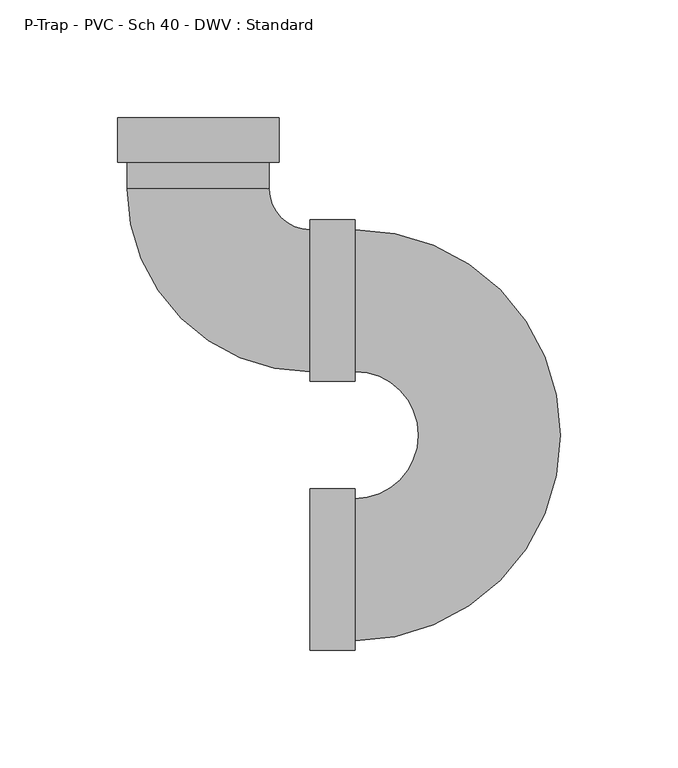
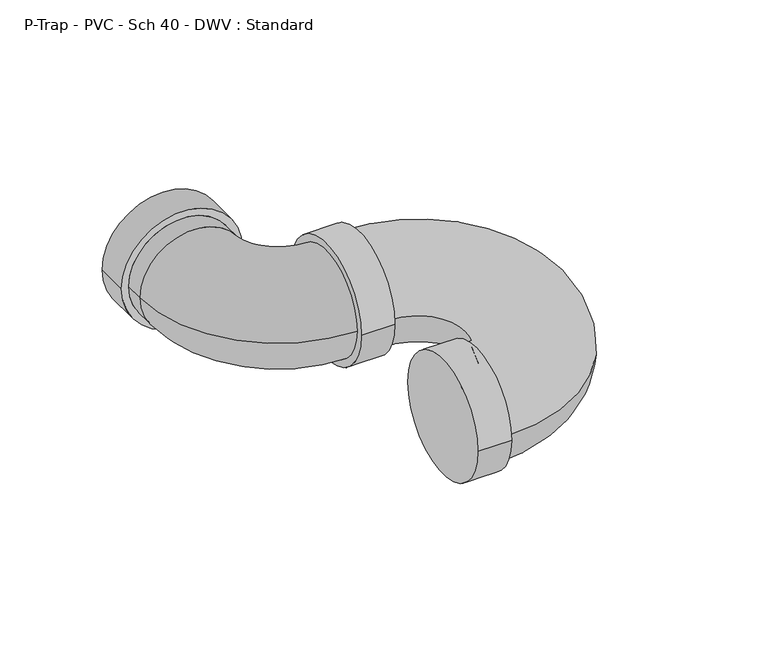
"""IFC4 building model written with IfcOpenShell, lengths in millimetres: pipe fitting geometry, P-Trap - PVC - Sch 40 - DWV : Standard."""

from ifc_helpers import new_model, si_unit, point, frame, origin, place, context, project, spatial, circle_curve, ellipse_curve, trimmed, source, transform, mapped, element, save
from ifc_brep_helpers import plane_surface, cylinder_surface, revolved_surface, advanced_brep


def p_trap_pvc_sch_40_dwv_standard_73d07651(model_context):
    return source(origin(), model_context, "Body", "AdvancedBrep", [
        advanced_brep(
        [(-34.3154, 192.0875, 0.0), (34.3154, 192.0875, 0.0), (-34.3154, 173.0375, 0.0), (34.3154, 173.0375, 0.0), (-30.1625, 173.0375, 0.0), (30.1625, 173.0375, 0.0), (30.1625, 161.925, 0.0), (-30.1625, 161.925, 0.0), (47.625, 84.1375, 0.0), (47.625, 144.4625, 0.0), (66.675, -30.1625, 0.0), (66.675, 144.4625, 0.0), (66.675, 84.1375, 0.0), (66.675, 30.1625, 0.0), (47.625, 79.9846, 0.0), (47.625, 148.6154, 0.0), (66.675, 79.9846, 0.0), (66.675, 148.6154, 0.0), (47.625, -34.3154, 0.0), (47.625, 34.3154, 0.0), (66.675, -34.3154, 0.0), (66.675, 34.3154, 0.0)],
        [
            (0, 1, circle_curve(frame((0.0, 192.0875, 0.0), z_axis=(0.0, 1.0, 0.0), x_axis=(1.0, 0.0, 0.0)), 34.3154)),
            (1, 0, circle_curve(frame((0.0, 192.0875, 0.0), z_axis=(0.0, 1.0, 0.0), x_axis=(1.0, 0.0, 0.0)), 34.3154)),
            (2, 3, circle_curve(frame((0.0, 173.0375, 0.0), z_axis=(0.0, -1.0, 0.0), x_axis=(1.0, 0.0, 0.0)), 34.3154)),
            (3, 2, circle_curve(frame((0.0, 173.0375, 0.0), z_axis=(0.0, -1.0, 0.0), x_axis=(1.0, 0.0, 0.0)), 34.3154)),
            (4, 5, circle_curve(frame((0.0, 173.0375, 0.0), z_axis=(0.0, 1.0, 0.0), x_axis=(1.0, 0.0, 0.0)), 30.1625)),
            (5, 4, circle_curve(frame((0.0, 173.0375, 0.0), z_axis=(0.0, 1.0, 0.0), x_axis=(1.0, 0.0, 0.0)), 30.1625)),
            (0, 2),
            (3, 1),
            (6, 7, circle_curve(frame((0.0, 161.925, 0.0), z_axis=(0.0, -1.0, 0.0), x_axis=(1.0, 0.0, 0.0)), 30.1625)),
            (7, 8, circle_curve(frame((47.625, 161.925, 0.0), z_axis=(0.0, 0.0, 1.0), x_axis=(-1.0, 0.0, 0.0)), 77.7875)),
            (8, 9, circle_curve(frame((47.625, 114.3, 0.0), z_axis=(-1.0, 0.0, 0.0), x_axis=(0.0, 1.0, 0.0)), 30.1625)),
            (9, 6, circle_curve(frame((47.625, 161.925, 0.0), z_axis=(0.0, 0.0, -1.0), x_axis=(-1.0, 0.0, 0.0)), 17.4625)),
            (7, 6, circle_curve(frame((0.0, 161.925, 0.0), z_axis=(0.0, -1.0, 0.0), x_axis=(1.0, 0.0, 0.0)), 30.1625)),
            (9, 8, circle_curve(frame((47.625, 114.3, 0.0), z_axis=(-1.0, 0.0, 0.0), x_axis=(0.0, 1.0, 0.0)), 30.1625)),
            (10, 11, circle_curve(frame((66.675, 57.15, 0.0), z_axis=(0.0, 0.0, 1.0), x_axis=(0.0, 1.0, 0.0)), 87.3125)),
            (11, 12, circle_curve(frame((66.675, 114.3, 0.0), z_axis=(1.0, 0.0, 0.0), x_axis=(0.0, 1.0, 0.0)), 30.1625)),
            (12, 13, circle_curve(frame((66.675, 57.15, 0.0), z_axis=(0.0, 0.0, -1.0), x_axis=(0.0, 1.0, 0.0)), 26.9875)),
            (13, 10, circle_curve(frame((66.675, 0.0, 0.0), z_axis=(1.0, 0.0, 0.0), x_axis=(0.0, -1.0, 0.0)), 30.1625)),
            (10, 13, circle_curve(frame((66.675, 0.0, 0.0), z_axis=(1.0, 0.0, 0.0), x_axis=(0.0, -1.0, 0.0)), 30.1625)),
            (12, 11, circle_curve(frame((66.675, 114.3, 0.0), z_axis=(1.0, 0.0, 0.0), x_axis=(0.0, 1.0, 0.0)), 30.1625)),
            (14, 15, circle_curve(frame((47.625, 114.3, 0.0), z_axis=(-1.0, 0.0, 0.0), x_axis=(0.0, 1.0, 0.0)), 34.3154)),
            (15, 14, circle_curve(frame((47.625, 114.3, 0.0), z_axis=(-1.0, 0.0, 0.0), x_axis=(0.0, 1.0, 0.0)), 34.3154)),
            (16, 17, circle_curve(frame((66.675, 114.3, 0.0), z_axis=(1.0, 0.0, 0.0), x_axis=(0.0, 1.0, 0.0)), 34.3154)),
            (17, 16, circle_curve(frame((66.675, 114.3, 0.0), z_axis=(1.0, 0.0, 0.0), x_axis=(0.0, 1.0, 0.0)), 34.3154)),
            (14, 16),
            (17, 15),
            (18, 19, circle_curve(frame((47.625, 0.0, 0.0), z_axis=(-1.0, 0.0, 0.0), x_axis=(0.0, 1.0, 0.0)), 34.3154)),
            (19, 18, circle_curve(frame((47.625, 0.0, 0.0), z_axis=(-1.0, 0.0, 0.0), x_axis=(0.0, 1.0, 0.0)), 34.3154)),
            (20, 21, circle_curve(frame((66.675, 0.0, 0.0), z_axis=(1.0, 0.0, 0.0), x_axis=(0.0, 1.0, 0.0)), 34.3154)),
            (21, 20, circle_curve(frame((66.675, 0.0, 0.0), z_axis=(1.0, 0.0, 0.0), x_axis=(0.0, 1.0, 0.0)), 34.3154)),
            (18, 20),
            (21, 19),
            (6, 5),
            (4, 7),
        ],
        [
            plane_surface(frame((0.0, 192.0875, 0.0), z_axis=(0.0, 1.0, 0.0), x_axis=(0.0, 0.0, 1.0))),
            plane_surface(frame((0.0, 173.0375, 0.0), z_axis=(0.0, -1.0, 0.0), x_axis=(0.0, 0.0, 1.0))),
            cylinder_surface(frame((0.0, 192.0875, 0.0), z_axis=(0.0, 1.0, 0.0), x_axis=(1.0, 0.0, 0.0)), 34.3154),
            revolved_surface(trimmed(ellipse_curve(frame((0.0, 161.925, 0.0), z_axis=(0.0, 1.0, 0.0), x_axis=(1.0, 0.0, 0.0)), 30.1625, 30.1625), [point((-30.1625, 161.925, 0.0))], [point((30.1625, 161.925, 0.0))], True, "CARTESIAN"), (47.625, 161.925, 0.0), (0.0, 0.0, 1.0)),
            revolved_surface(trimmed(ellipse_curve(frame((0.0, 161.925, 0.0), z_axis=(0.0, 1.0, 0.0), x_axis=(1.0, 0.0, 0.0)), 30.1625, 30.1625), [point((30.1625, 161.925, 0.0))], [point((-30.1625, 161.925, 0.0))], True, "CARTESIAN"), (47.625, 161.925, 0.0), (0.0, 0.0, 1.0)),
            revolved_surface(trimmed(ellipse_curve(frame((66.675, 114.3, 0.0), z_axis=(-1.0, 0.0, 0.0), x_axis=(0.0, 1.0, 0.0)), 30.1625, 30.1625), [point((66.675, 84.1375, 0.0))], [point((66.675, 144.4625, 0.0))], True, "CARTESIAN"), (66.675, 57.15, 0.0), (0.0, 0.0, -1.0)),
            revolved_surface(trimmed(ellipse_curve(frame((66.675, 114.3, 0.0), z_axis=(-1.0, 0.0, 0.0), x_axis=(0.0, 1.0, 0.0)), 30.1625, 30.1625), [point((66.675, 144.4625, 0.0))], [point((66.675, 84.1375, 0.0))], True, "CARTESIAN"), (66.675, 57.15, 0.0), (0.0, 0.0, -1.0)),
            plane_surface(frame((47.625, 114.3, 0.0), z_axis=(-1.0, 0.0, 0.0), x_axis=(0.0, 0.0, 1.0))),
            plane_surface(frame((66.675, 114.3, 0.0), z_axis=(1.0, 0.0, 0.0), x_axis=(0.0, 0.0, 1.0))),
            cylinder_surface(frame((47.625, 114.3, 0.0), z_axis=(-1.0, 0.0, 0.0), x_axis=(0.0, 1.0, 0.0)), 34.3154),
            plane_surface(frame((47.625, 0.0, 0.0), z_axis=(-1.0, 0.0, 0.0), x_axis=(0.0, 0.0, 1.0))),
            plane_surface(frame((66.675, 0.0, 0.0), z_axis=(1.0, 0.0, 0.0), x_axis=(0.0, 0.0, 1.0))),
            cylinder_surface(frame((47.625, 0.0, 0.0), z_axis=(-1.0, 0.0, 0.0), x_axis=(0.0, 1.0, 0.0)), 34.3154),
            cylinder_surface(frame((0.0, 192.0875, 0.0), z_axis=(0.0, 1.0, 0.0), x_axis=(1.0, 0.0, 0.0)), 30.1625),
        ],
        [
            (0, [[1, 2]]),
            (1, [[3, 4], [5, 6]]),
            (2, [[-1, 7, -4, 8]]),
            (2, [[-2, -8, -3, -7]]),
            (3, [[9, 10, 11, 12]]),
            (4, [[13, -12, 14, -10]]),
            (5, [[15, 16, 17, 18]]),
            (6, [[-15, 19, -17, 20]]),
            (7, [[21, 22], [-11, -14]]),
            (8, [[23, 24], [-16, -20]]),
            (9, [[-21, 25, -24, 26]]),
            (9, [[-22, -26, -23, -25]]),
            (10, [[27, 28]]),
            (11, [[29, 30], [-18, -19]]),
            (12, [[-27, 31, -30, 32]]),
            (12, [[-28, -32, -29, -31]]),
            (13, [[-9, 33, -5, 34]]),
            (13, [[-13, -34, -6, -33]]),
        ],
    ),
    ])


if __name__ == "__main__":
    model = new_model("IFC4")
    model_context = context("Model", 3, world=origin())
    ifc_project = project(units=[si_unit("LENGTHUNIT", "METRE", prefix="MILLI")], contexts=[model_context])
    site = spatial("IfcSite", under=ifc_project)
    building = spatial("IfcBuilding", under=site)
    placement = place(None, origin())
    p_trap_pvc_sch_40_dwv_standard_shape = p_trap_pvc_sch_40_dwv_standard_73d07651(model_context)
    element("IfcPipeFitting", 1, ObjectType="P-Trap - PVC - Sch 40 - DWV : Standard", at=placement, inside=building, context=model_context, shape_type="MappedRepresentation", body=[
        mapped(p_trap_pvc_sch_40_dwv_standard_shape, transform((0.0, 0.0, 0.0), x_axis=(1.0, 0.0, 0.0), y_axis=(0.0, 1.0, 0.0), z_axis=(0.0, 0.0, 1.0))),
    ])
    save(model, "model.ifc")
